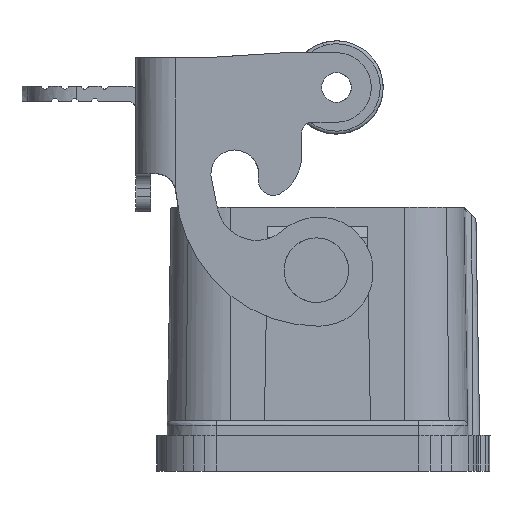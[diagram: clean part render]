
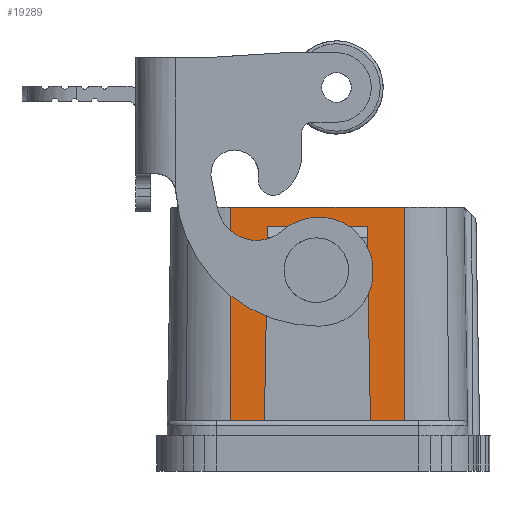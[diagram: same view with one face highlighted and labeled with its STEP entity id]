
A CAD part, left-side view. The second image highlights one B-rep face of the part: STEP entity #19289.
In plain terms, the highlighted planar face has unit normal (-1, 0, 0.018).
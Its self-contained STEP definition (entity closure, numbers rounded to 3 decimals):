
#9280=DIRECTION('',(0.,-1.,0.));
#9281=VECTOR('',#9280,17.502);
#9282=CARTESIAN_POINT('',(-31.25,8.751,25.));
#9283=LINE('',#9282,#9281);
#9287=CARTESIAN_POINT('',(-31.25,8.751,25.));
#9630=DIRECTION('',(-0.017,0.,-1.));
#9631=VECTOR('',#9630,21.503);
#9632=CARTESIAN_POINT('',(-31.25,-8.751,
25.));
#9633=LINE('',#9632,#9631);
#9689=CARTESIAN_POINT('',(-31.625,-8.751,
3.5));
#10951=DIRECTION('',(0.017,0.,1.));
#10952=VECTOR('',#10951,21.503);
#10953=CARTESIAN_POINT('',(-31.625,8.751,
3.5));
#10954=LINE('',#10953,#10952);
#10955=DIRECTION('',(0.,-1.,0.));
#10956=VECTOR('',#10955,3.411);
#10957=CARTESIAN_POINT('',(-31.625,-5.34,
3.5));
#10958=LINE('',#10957,#10956);
#10959=DIRECTION('',(0.,-1.,0.));
#10960=VECTOR('',#10959,3.411);
#10961=CARTESIAN_POINT('',(-31.625,8.751,
3.5));
#10962=LINE('',#10961,#10960);
#10967=DIRECTION('',(0.017,0.017,1.));
#10968=VECTOR('',#10967,19.506);
#10969=CARTESIAN_POINT('',(-31.625,-5.34,
3.5));
#10970=LINE('',#10969,#10968);
#10975=DIRECTION('',(0.,1.,0.));
#10976=VECTOR('',#10975,10.);
#10977=CARTESIAN_POINT('',(-31.285,-5.,23.));
#10978=LINE('',#10977,#10976);
#10983=DIRECTION('',(-0.017,0.017,-1.));
#10984=VECTOR('',#10983,19.506);
#10985=CARTESIAN_POINT('',(-31.285,5.,
23.));
#10986=LINE('',#10985,#10984);
#16102=CARTESIAN_POINT('',(-31.625,5.34,
3.5));
#16103=VERTEX_POINT('',#16102);
#16115=VERTEX_POINT('',#9287);
#16271=CARTESIAN_POINT('',(-31.625,8.751,
3.5));
#16272=VERTEX_POINT('',#16271);
#16602=CARTESIAN_POINT('',(-31.285,5.,
23.));
#16603=VERTEX_POINT('',#16602);
#17077=CARTESIAN_POINT('',(-31.285,-5.,23.));
#17078=VERTEX_POINT('',#17077);
#17243=CARTESIAN_POINT('',(-31.25,-8.751,
25.));
#17244=VERTEX_POINT('',#17243);
#17262=CARTESIAN_POINT('',(-31.625,-5.34,
3.5));
#17263=VERTEX_POINT('',#17262);
#17350=VERTEX_POINT('',#9689);
#19271=CARTESIAN_POINT('',(-31.625,-8.751,3.5));
#19272=DIRECTION('',(-1.,0.,0.017));
#19273=DIRECTION('',(0.017,0.,1.));
#19274=AXIS2_PLACEMENT_3D('',#19271,#19272,#19273);
#19275=PLANE('',#19274);
#19276=ORIENTED_EDGE('',*,*,#19263,.T.);
#19277=ORIENTED_EDGE('',*,*,#17679,.T.);
#19278=ORIENTED_EDGE('',*,*,#17858,.T.);
#19279=ORIENTED_EDGE('',*,*,#17989,.F.);
#19281=ORIENTED_EDGE('',*,*,#19280,.T.);
#19283=ORIENTED_EDGE('',*,*,#19282,.T.);
#19285=ORIENTED_EDGE('',*,*,#19284,.T.);
#19286=ORIENTED_EDGE('',*,*,#17981,.F.);
#19287=EDGE_LOOP('',(#19276,#19277,#19278,#19279,#19281,#19283,#19285,#19286));
#19288=FACE_OUTER_BOUND('',#19287,.F.);
#19289=ADVANCED_FACE('',(#19288),#19275,.T.);
#17679=EDGE_CURVE('',#16115,#17244,#9283,.T.);
#17858=EDGE_CURVE('',#17244,#17350,#9633,.T.);
#17981=EDGE_CURVE('',#16272,#16103,#10962,.T.);
#17989=EDGE_CURVE('',#17263,#17350,#10958,.T.);
#19263=EDGE_CURVE('',#16272,#16115,#10954,.T.);
#19280=EDGE_CURVE('',#17263,#17078,#10970,.T.);
#19282=EDGE_CURVE('',#17078,#16603,#10978,.T.);
#19284=EDGE_CURVE('',#16603,#16103,#10986,.T.);
